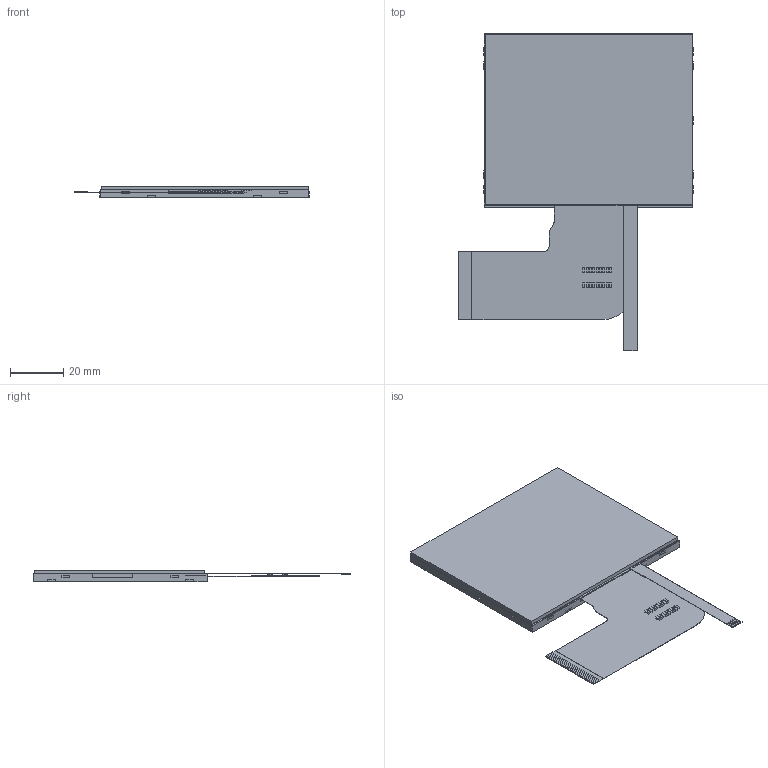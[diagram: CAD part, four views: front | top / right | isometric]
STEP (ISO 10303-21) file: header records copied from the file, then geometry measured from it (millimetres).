
FILE_DESCRIPTION (( 'STEP AP214' ), '1' );
FILE_NAME ('CFAF320240F-035T-TS.STEP', '2020-02-07T22:27:47', ( '' ), ( '' ), 'SwSTEP 2.0', 'SolidWorks 2015', '' );
FILE_SCHEMA (( 'AUTOMOTIVE_DESIGN' ));
Length unit declared in the file: millimetre
Products named in the file (1): CFAF320240F-035T-TS
Bounding box: 88 x 118.95 x 4.45 mm (x, y, z)
Volume: 22444.4 mm3; surface area: 26362 mm2
Topology: 7 solids, 7 shells, 464 faces, 1236 edges, 824 vertices
Faces by surface type: plane 458, cylinder 6
Entity records: 19170 total; most frequent: CARTESIAN_POINT 2525, ORIENTED_EDGE 2472, DIRECTION 2178, EDGE_CURVE 1236, VECTOR 1224, LINE 1224, VERTEX_POINT 824, EDGE_LOOP 502
